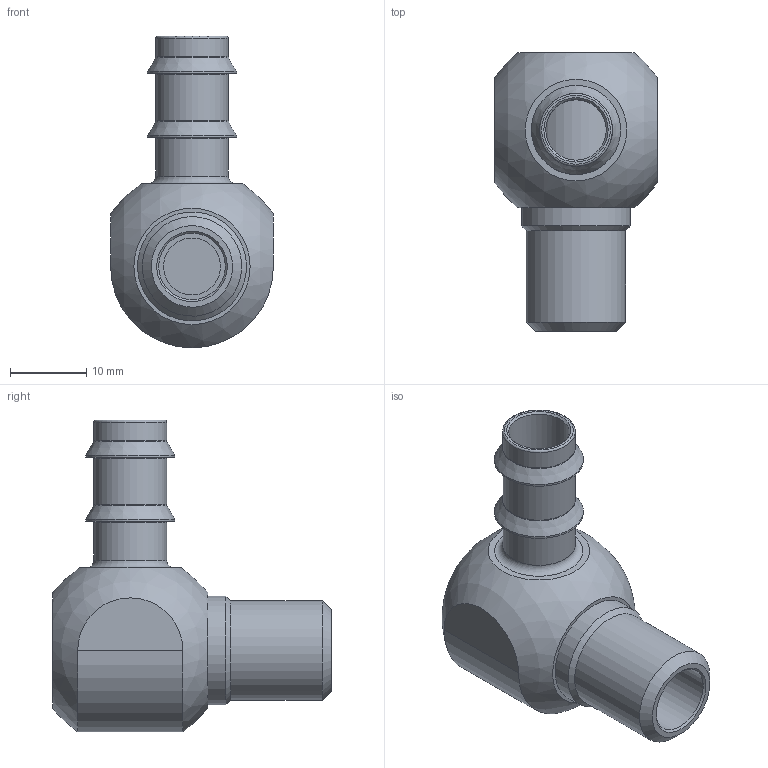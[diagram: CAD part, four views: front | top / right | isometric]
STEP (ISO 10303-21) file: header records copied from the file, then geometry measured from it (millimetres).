
FILE_DESCRIPTION(/* description */ (''),/* implementation_level */ '2;1');
FILE_NAME(/* name */ 'C:/Users/drich/Desktop/wj14-s v1.step',/* time_stamp */ '2019-11-18T20:02:57-06:00',/* author */ (''),/* organization */ (''),/* preprocessor_version */ 'ST-DEVELOPER v18',/* originating_system */ 'Autodesk Translation Framework v8.12.0.6',/* authorisation */ '');
FILE_SCHEMA (('AUTOMOTIVE_DESIGN { 1 0 10303 214 3 1 1 }'));
Length unit declared in the file: inch
Products named in the file (4): wj14-s; body 1; WJ14-S SHAFT; WJ14 SHAFT NEW
Assembly tree (3 placements, depth 4):
  wj14-s
    body 1
      WJ14-S SHAFT
        WJ14 SHAFT NEW
Bounding box: 21.34 x 36.5 x 40.84 mm (x, y, z)
Volume: 6281.4 mm3; surface area: 6760.1 mm2
Topology: 2 solids, 2 shells, 81 faces, 225 edges, 163 vertices
Faces by surface type: plane 26, cylinder 20, torus 19, cone 15, sphere 1
Full cylindrical faces by diameter (mm): 7.468 x1, 7.925 x1, 8.712 x1, 9.525 x3, 11.684 x2, 12.573 x1, 12.7 x1, 12.802 x1, 12.827 x2, 13.032 x1, 13.056 x1, 14.275 x1, 15.621 x2, 18.796 x1
Entity records: 2878 total; most frequent: DIRECTION 549, CARTESIAN_POINT 523, ORIENTED_EDGE 448, AXIS2_PLACEMENT_3D 247, EDGE_CURVE 224, VERTEX_POINT 163, CIRCLE 159, EDGE_LOOP 101
